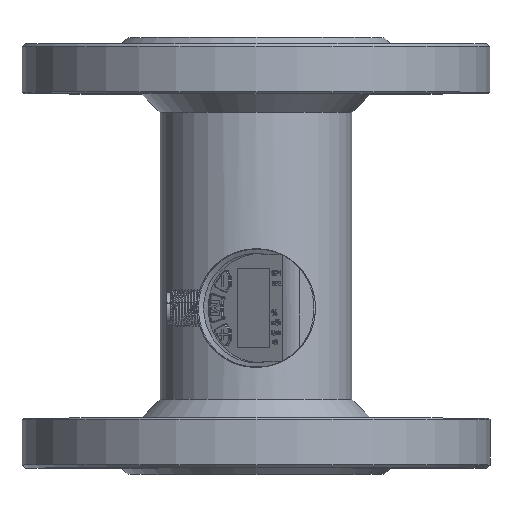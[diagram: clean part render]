
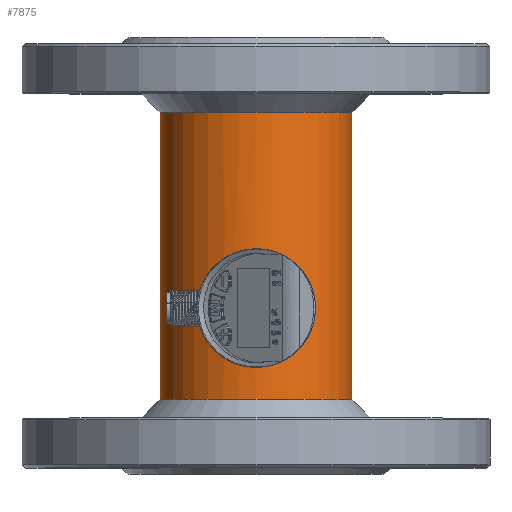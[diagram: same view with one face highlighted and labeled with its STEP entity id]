
A CAD part, top view. The second image highlights one B-rep face of the part: STEP entity #7875.
In plain terms, the highlighted cylindrical face has radius 30.75 mm (diameter 61.5 mm), a full revolution.
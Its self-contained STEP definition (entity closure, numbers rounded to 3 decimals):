
#6090=CYLINDRICAL_SURFACE('',#23544,30.75);
#6878=B_SPLINE_CURVE_WITH_KNOTS('',3,(#44219,#44220,#44221,#44222),
 .UNSPECIFIED.,.F.,.F.,(4,4),(0.,1.),.UNSPECIFIED.);
#6879=B_SPLINE_CURVE_WITH_KNOTS('',3,(#44224,#44225,#44226,#44227,#44228,
#44229),.UNSPECIFIED.,.F.,.F.,(4,2,4),(0.,0.5,1.),.UNSPECIFIED.);
#6880=B_SPLINE_CURVE_WITH_KNOTS('',3,(#44231,#44232,#44233,#44234),
 .UNSPECIFIED.,.F.,.F.,(4,4),(0.,1.),.UNSPECIFIED.);
#6881=B_SPLINE_CURVE_WITH_KNOTS('',3,(#44238,#44239,#44240,#44241),
 .UNSPECIFIED.,.F.,.F.,(4,4),(0.,1.),.UNSPECIFIED.);
#6882=B_SPLINE_CURVE_WITH_KNOTS('',3,(#44243,#44244,#44245,#44246,#44247,
#44248),.UNSPECIFIED.,.F.,.F.,(4,2,4),(0.,0.5,1.),.UNSPECIFIED.);
#6883=B_SPLINE_CURVE_WITH_KNOTS('',3,(#44250,#44251,#44252,#44253),
 .UNSPECIFIED.,.F.,.F.,(4,4),(0.,1.),.UNSPECIFIED.);
#7875=ADVANCED_FACE('',(#8750,#8751,#8752),#6090,.T.);
#8750=FACE_BOUND('',#10043,.T.);
#8751=FACE_BOUND('',#10044,.T.);
#8752=FACE_BOUND('',#10045,.T.);
#10043=EDGE_LOOP('',(#15483));
#10044=EDGE_LOOP('',(#15484));
#10045=EDGE_LOOP('',(#15485,#15486,#15487,#15488,#15489,#15490,#15491,#15492));
#10773=CIRCLE('',#23542,30.75);
#10774=CIRCLE('',#23543,30.75);
#15483=ORIENTED_EDGE('',*,*,#19743,.T.);
#15484=ORIENTED_EDGE('',*,*,#19744,.T.);
#15485=ORIENTED_EDGE('',*,*,#19745,.T.);
#15486=ORIENTED_EDGE('',*,*,#19746,.T.);
#15487=ORIENTED_EDGE('',*,*,#19747,.T.);
#15488=ORIENTED_EDGE('',*,*,#19748,.T.);
#15489=ORIENTED_EDGE('',*,*,#19749,.T.);
#15490=ORIENTED_EDGE('',*,*,#19750,.T.);
#15491=ORIENTED_EDGE('',*,*,#19751,.T.);
#15492=ORIENTED_EDGE('',*,*,#19752,.T.);
#17322=VERTEX_POINT('',#44213);
#17323=VERTEX_POINT('',#44215);
#17324=VERTEX_POINT('',#44217);
#17325=VERTEX_POINT('',#44218);
#17326=VERTEX_POINT('',#44223);
#17327=VERTEX_POINT('',#44230);
#17328=VERTEX_POINT('',#44235);
#17329=VERTEX_POINT('',#44237);
#17330=VERTEX_POINT('',#44242);
#17331=VERTEX_POINT('',#44249);
#19743=EDGE_CURVE('',#17322,#17322,#10773,.T.);
#19744=EDGE_CURVE('',#17323,#17323,#10774,.T.);
#19745=EDGE_CURVE('',#17324,#17325,#20853,.T.);
#19746=EDGE_CURVE('',#17325,#17326,#6878,.T.);
#19747=EDGE_CURVE('',#17326,#17327,#6879,.T.);
#19748=EDGE_CURVE('',#17327,#17328,#6880,.T.);
#19749=EDGE_CURVE('',#17328,#17329,#20854,.T.);
#19750=EDGE_CURVE('',#17329,#17330,#6881,.T.);
#19751=EDGE_CURVE('',#17330,#17331,#6882,.T.);
#19752=EDGE_CURVE('',#17331,#17324,#6883,.T.);
#20853=LINE('',#44216,#22045);
#20854=LINE('',#44236,#22046);
#22045=VECTOR('',#27796,1.);
#22046=VECTOR('',#27797,1.);
#23542=AXIS2_PLACEMENT_3D('',#44212,#27792,#27793);
#23543=AXIS2_PLACEMENT_3D('',#44214,#27794,#27795);
#23544=AXIS2_PLACEMENT_3D('',#44254,#27798,#27799);
#27792=DIRECTION('',(0.,-1.,0.));
#27793=DIRECTION('',(-1.,0.,0.));
#27794=DIRECTION('',(0.,1.,0.));
#27795=DIRECTION('',(1.,0.,0.));
#27796=DIRECTION('',(0.,1.,0.));
#27797=DIRECTION('',(0.,-1.,0.));
#27798=DIRECTION('',(0.,1.,0.));
#27799=DIRECTION('',(1.,0.,0.));
#44212=CARTESIAN_POINT('',(25.484,99.4,-125.224));
#44213=CARTESIAN_POINT('',(-5.266,99.4,-125.224));
#44214=CARTESIAN_POINT('',(25.484,7.4,-125.224));
#44215=CARTESIAN_POINT('',(56.234,7.4,-125.224));
#44216=CARTESIAN_POINT('',(15.259,-76.6,-96.224));
#44217=CARTESIAN_POINT('',(15.259,30.146,-96.224));
#44218=CARTESIAN_POINT('',(15.259,42.654,-96.224));
#44219=CARTESIAN_POINT('',(15.259,42.654,-96.224));
#44220=CARTESIAN_POINT('',(15.677,43.622,-96.077));
#44221=CARTESIAN_POINT('',(16.19,44.532,-95.906));
#44222=CARTESIAN_POINT('',(16.806,45.381,-95.724));
#44223=CARTESIAN_POINT('',(16.806,45.381,-95.724));
#44224=CARTESIAN_POINT('',(16.806,45.381,-95.724));
#44225=CARTESIAN_POINT('',(19.096,47.598,-95.051));
#44226=CARTESIAN_POINT('',(22.251,48.892,-94.476));
#44227=CARTESIAN_POINT('',(28.691,48.907,-94.473));
#44228=CARTESIAN_POINT('',(31.865,47.621,-95.048));
#44229=CARTESIAN_POINT('',(34.163,45.412,-95.724));
#44230=CARTESIAN_POINT('',(34.163,45.412,-95.724));
#44231=CARTESIAN_POINT('',(34.163,45.412,-95.724));
#44232=CARTESIAN_POINT('',(34.778,44.569,-95.905));
#44233=CARTESIAN_POINT('',(35.291,43.666,-96.076));
#44234=CARTESIAN_POINT('',(35.71,42.705,-96.224));
#44235=CARTESIAN_POINT('',(35.71,42.705,-96.224));
#44236=CARTESIAN_POINT('',(35.71,-76.6,-96.224));
#44237=CARTESIAN_POINT('',(35.71,30.095,-96.224));
#44238=CARTESIAN_POINT('',(35.71,30.095,-96.224));
#44239=CARTESIAN_POINT('',(35.291,29.134,-96.076));
#44240=CARTESIAN_POINT('',(34.778,28.231,-95.905));
#44241=CARTESIAN_POINT('',(34.163,27.388,-95.724));
#44242=CARTESIAN_POINT('',(34.163,27.388,-95.724));
#44243=CARTESIAN_POINT('',(34.163,27.388,-95.724));
#44244=CARTESIAN_POINT('',(31.865,25.18,-95.048));
#44245=CARTESIAN_POINT('',(28.706,23.896,-94.474));
#44246=CARTESIAN_POINT('',(22.266,23.904,-94.474));
#44247=CARTESIAN_POINT('',(19.097,25.201,-95.05));
#44248=CARTESIAN_POINT('',(16.806,27.419,-95.724));
#44249=CARTESIAN_POINT('',(16.806,27.419,-95.724));
#44250=CARTESIAN_POINT('',(16.806,27.419,-95.724));
#44251=CARTESIAN_POINT('',(16.19,28.268,-95.906));
#44252=CARTESIAN_POINT('',(15.677,29.178,-96.077));
#44253=CARTESIAN_POINT('',(15.259,30.146,-96.224));
#44254=CARTESIAN_POINT('',(25.484,-76.6,-125.224));
